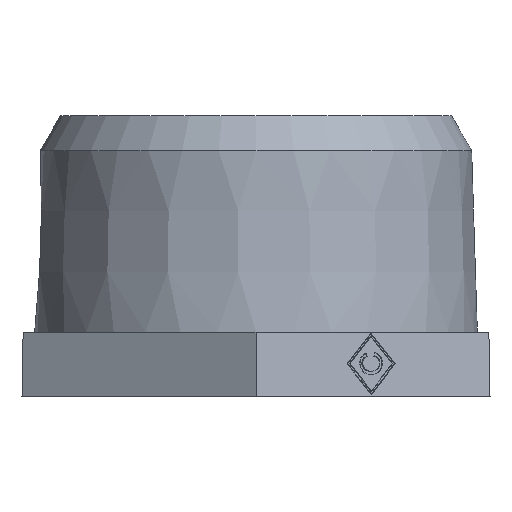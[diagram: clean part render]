
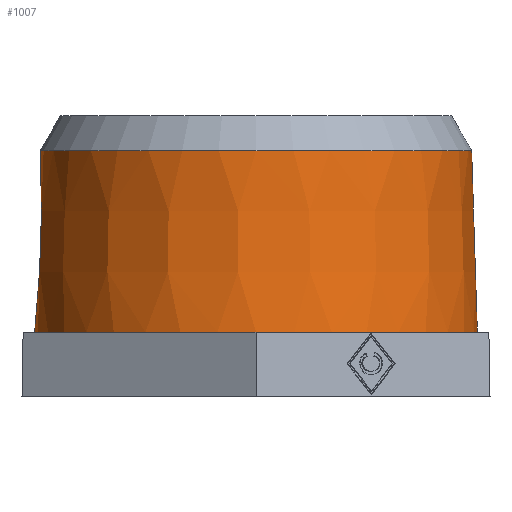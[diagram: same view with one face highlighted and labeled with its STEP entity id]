
A CAD part, front view. The second image highlights one B-rep face of the part: STEP entity #1007.
In plain terms, the highlighted conical face has half-angle 1.8 degrees and reference radius 24.45 mm.
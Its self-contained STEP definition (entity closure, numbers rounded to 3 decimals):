
#976=CARTESIAN_POINT('',(23.82,0.,27.153));
#977=VERTEX_POINT('',#976);
#978=CARTESIAN_POINT('',(0.,0.,27.153));
#979=DIRECTION('',(0.0,0.0,1.0));
#980=DIRECTION('',(-1.0,0.0,0.0));
#981=AXIS2_PLACEMENT_3D('',#978,#979,#980);
#982=CIRCLE('',#981,23.82);
#983=EDGE_CURVE('',#977,#977,#982,.T.);
#988=CARTESIAN_POINT('',(0.,0.0,7.1));
#989=DIRECTION('',(0.0,0.0,-1.0));
#990=DIRECTION('',(-1.0,0.0,0.0));
#991=AXIS2_PLACEMENT_3D('',#988,#989,#990);
#992=CONICAL_SURFACE('',#991,24.45,1.8);
#993=CARTESIAN_POINT('',(24.45,0.,7.1));
#994=VERTEX_POINT('',#993);
#995=CARTESIAN_POINT('',(0.,0.0,7.1));
#996=DIRECTION('',(0.0,0.0,-1.0));
#997=DIRECTION('',(-1.0,0.0,0.0));
#998=AXIS2_PLACEMENT_3D('',#995,#996,#997);
#999=CIRCLE('',#998,24.45);
#1000=EDGE_CURVE('',#994,#994,#999,.T.);
#1001=ORIENTED_EDGE('',*,*,#1000,.F.);
#1002=EDGE_LOOP('',(#1001));
#1003=FACE_OUTER_BOUND('',#1002,.T.);
#1004=ORIENTED_EDGE('',*,*,#983,.F.);
#1005=EDGE_LOOP('',(#1004));
#1006=FACE_BOUND('',#1005,.T.);
#1007=ADVANCED_FACE('',(#1003,#1006),#992,.T.);
